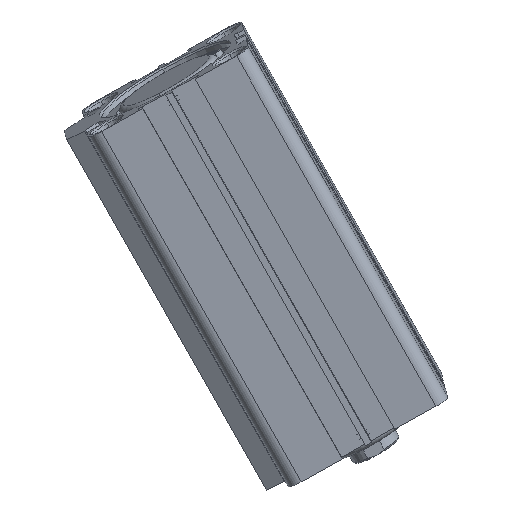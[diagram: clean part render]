
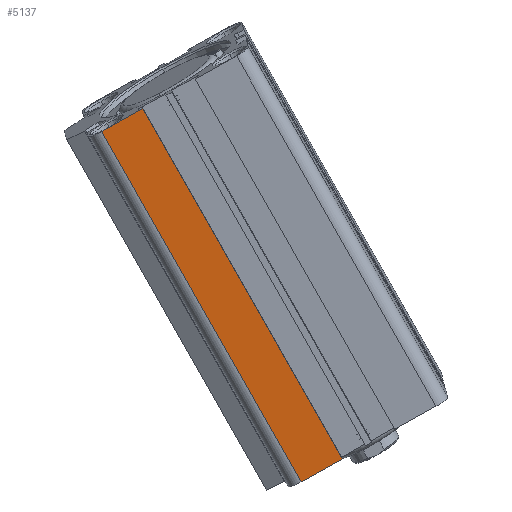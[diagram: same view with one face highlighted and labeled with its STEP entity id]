
A CAD part, left-side view. The second image highlights one B-rep face of the part: STEP entity #5137.
In plain terms, the highlighted planar face has unit normal (-0.987, -0.042, -0.158) as drawn and (-1, 0, 0) by its records, which use the part's own axes.
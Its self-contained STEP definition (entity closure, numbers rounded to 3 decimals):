
#244 = VECTOR ( 'NONE', #3920, 1000. ) ;
#567 = EDGE_CURVE ( 'NONE', #9744, #14743, #15297, .T. ) ;
#1627 = DIRECTION ( 'NONE',  ( 0., 1., 0. ) ) ;
#1685 = VECTOR ( 'NONE', #16651, 1000. ) ;
#2368 = CARTESIAN_POINT ( 'NONE',  ( -26., 22., 0. ) ) ;
#2727 = AXIS2_PLACEMENT_3D ( 'NONE', #18957, #16333, #11474 ) ;
#2840 = ORIENTED_EDGE ( 'NONE', *, *, #8261, .F. ) ;
#3018 = VECTOR ( 'NONE', #1627, 1000. ) ;
#3259 = PLANE ( 'NONE',  #2727 ) ;
#3810 = ORIENTED_EDGE ( 'NONE', *, *, #567, .T. ) ;
#3920 = DIRECTION ( 'NONE',  ( 0., 1., 0. ) ) ;
#5137 = ADVANCED_FACE ( 'NONE', ( #5860 ), #3259, .T. ) ;
#5637 = CARTESIAN_POINT ( 'NONE',  ( -26., 8.6, 0. ) ) ;
#5860 = FACE_OUTER_BOUND ( 'NONE', #13212, .T. ) ;
#6183 = ORIENTED_EDGE ( 'NONE', *, *, #12584, .T. ) ;
#6310 = CARTESIAN_POINT ( 'NONE',  ( -26., 8.6, 116. ) ) ;
#7060 = LINE ( 'NONE', #20025, #244 ) ;
#7766 = CARTESIAN_POINT ( 'NONE',  ( -26., 0., 116. ) ) ;
#8183 = VERTEX_POINT ( 'NONE', #13742 ) ;
#8261 = EDGE_CURVE ( 'NONE', #8183, #16711, #18128, .T. ) ;
#9744 = VERTEX_POINT ( 'NONE', #18755 ) ;
#10991 = VECTOR ( 'NONE', #12006, 1000. ) ;
#11474 = DIRECTION ( 'NONE',  ( 0., -1., 0. ) ) ;
#12006 = DIRECTION ( 'NONE',  ( 0., 0., -1. ) ) ;
#12584 = EDGE_CURVE ( 'NONE', #8183, #9744, #17194, .T. ) ;
#13212 = EDGE_LOOP ( 'NONE', ( #13414, #2840, #6183, #3810 ) ) ;
#13414 = ORIENTED_EDGE ( 'NONE', *, *, #20499, .F. ) ;
#13742 = CARTESIAN_POINT ( 'NONE',  ( -26., 8.6, 116. ) ) ;
#14743 = VERTEX_POINT ( 'NONE', #2368 ) ;
#15297 = LINE ( 'NONE', #18221, #1685 ) ;
#16333 = DIRECTION ( 'NONE',  ( -1., 0., 0. ) ) ;
#16651 = DIRECTION ( 'NONE',  ( 0., 0., -1. ) ) ;
#16711 = VERTEX_POINT ( 'NONE', #5637 ) ;
#17194 = LINE ( 'NONE', #7766, #3018 ) ;
#18128 = LINE ( 'NONE', #6310, #10991 ) ;
#18221 = CARTESIAN_POINT ( 'NONE',  ( -26., 22., 116. ) ) ;
#18755 = CARTESIAN_POINT ( 'NONE',  ( -26., 22., 116. ) ) ;
#18957 = CARTESIAN_POINT ( 'NONE',  ( -26., 0., 116. ) ) ;
#20025 = CARTESIAN_POINT ( 'NONE',  ( -26., 0., 0. ) ) ;
#20499 = EDGE_CURVE ( 'NONE', #16711, #14743, #7060, .T. ) ;
